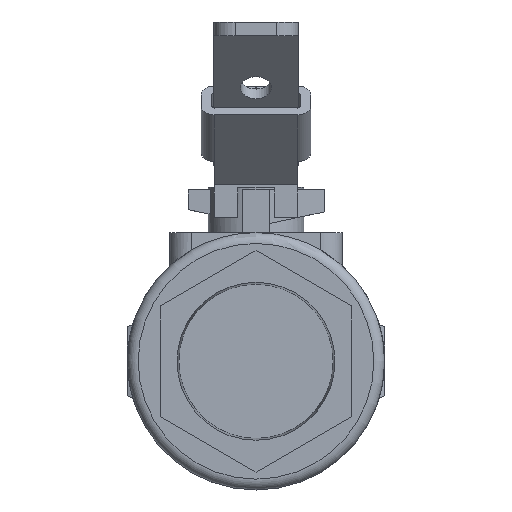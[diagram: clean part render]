
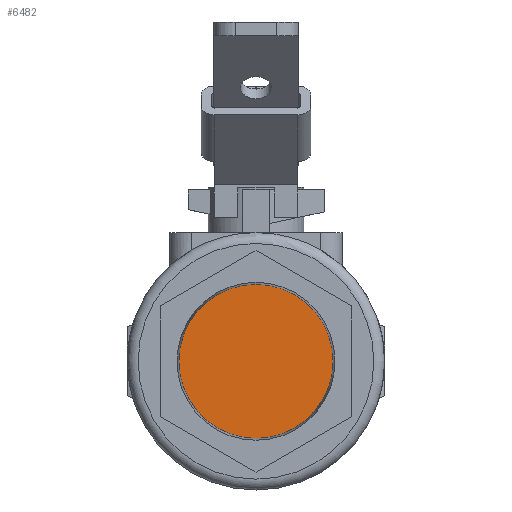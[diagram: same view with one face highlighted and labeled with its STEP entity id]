
A CAD part, left-side view. The second image highlights one B-rep face of the part: STEP entity #6482.
In plain terms, the highlighted free-form (B-spline) face has degree [1, 1] with [2, 2] control points.
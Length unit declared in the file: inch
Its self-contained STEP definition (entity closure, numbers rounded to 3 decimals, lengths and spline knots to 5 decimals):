
#6466=CARTESIAN_POINT('',(5.04944,-6.24313,2.00194));
#6467=CARTESIAN_POINT('',(5.04944,-8.02291,2.00194));
#6468=CARTESIAN_POINT('',(5.04944,-6.24313,0.22216));
#6469=CARTESIAN_POINT('',(5.04944,-8.02291,0.22216));
#6470=B_SPLINE_SURFACE_WITH_KNOTS('',1,1,((#6466,#6468),(#6467,#6469)),.UNSPECIFIED.,.F.,.F.,.U.,(2,2),(2,2),(0.0,1.77978),(0.0,1.77978),.UNSPECIFIED.);
#6471=CARTESIAN_POINT('',(5.04944,-6.24313,1.11205));
#6472=VERTEX_POINT('',#6471);
#6473=CARTESIAN_POINT('',(5.04944,-7.13302,1.11205));
#6474=DIRECTION('',(1.0,0.0,0.0));
#6475=DIRECTION('',(0.0,1.0,0.0));
#6476=AXIS2_PLACEMENT_3D('',#6473,#6474,#6475);
#6477=CIRCLE('',#6476,0.88989);
#6478=EDGE_CURVE('',#6472,#6472,#6477,.T.);
#6479=ORIENTED_EDGE('',*,*,#6478,.F.);
#6480=EDGE_LOOP('',(#6479));
#6481=FACE_OUTER_BOUND('',#6480,.T.);
#6482=ADVANCED_FACE('',(#6481),#6470,.F.);
